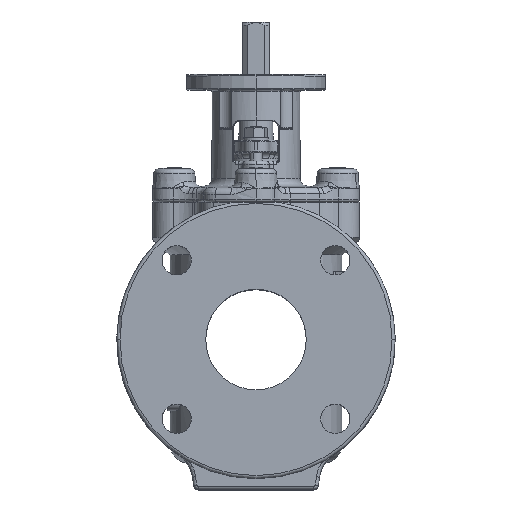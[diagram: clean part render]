
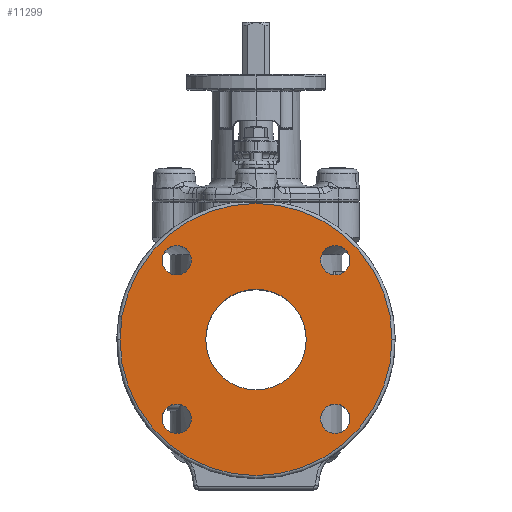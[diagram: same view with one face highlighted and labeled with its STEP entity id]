
A CAD part, top view. The second image highlights one B-rep face of the part: STEP entity #11299.
In plain terms, the highlighted planar face has unit normal (0, 0, 1).
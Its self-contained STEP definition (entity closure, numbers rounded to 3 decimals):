
#908 = ORIENTED_EDGE ( 'NONE', *, *, #983, .T. ) ;
#952 = CIRCLE ( 'NONE', #1980, 9.5 ) ;
#983 = EDGE_CURVE ( 'Defeatured_0_0+Defeatured_0_20+Defeatured_0_20+Defeatured_0_20', #19013, #18368, #7743, .T. ) ;
#1004 = CARTESIAN_POINT ( 'NONE',  ( -32.5, 0., 95. ) ) ;
#1030 = VERTEX_POINT ( 'NONE', #17329 ) ;
#1091 = DIRECTION ( 'NONE',  ( 0., 0., 1. ) ) ;
#1467 = DIRECTION ( 'NONE',  ( -1., 0., 0. ) ) ;
#1748 = AXIS2_PLACEMENT_3D ( 'NONE', #26454, #21728, #21398 ) ;
#1980 = AXIS2_PLACEMENT_3D ( 'NONE', #31773, #21829, #1467 ) ;
#2681 = DIRECTION ( 'NONE',  ( 1., 0., 0. ) ) ;
#2866 = VERTEX_POINT ( 'NONE', #7970 ) ;
#3082 = ORIENTED_EDGE ( 'NONE', *, *, #5175, .T. ) ;
#3686 = VERTEX_POINT ( 'NONE', #24693 ) ;
#3842 = ORIENTED_EDGE ( 'NONE', *, *, #25245, .T. ) ;
#3972 = AXIS2_PLACEMENT_3D ( 'NONE', #20230, #24798, #15147 ) ;
#4914 = AXIS2_PLACEMENT_3D ( 'NONE', #11850, #26538, #19337 ) ;
#5175 = EDGE_CURVE ( 'Defeatured_0_0+Defeatured_0_611+Defeatured_0_611+Defeatured_0_611', #19347, #3686, #31536, .T. ) ;
#5210 = DIRECTION ( 'NONE',  ( -1., 0., 0. ) ) ;
#5399 = DIRECTION ( 'NONE',  ( 0., -1., 0. ) ) ;
#5490 = FACE_BOUND ( 'NONE', #11392, .T. ) ;
#5534 = AXIS2_PLACEMENT_3D ( 'NONE', #31422, #31279, #25895 ) ;
#5937 = CARTESIAN_POINT ( 'NONE',  ( -88., 0., 95. ) ) ;
#6311 = ORIENTED_EDGE ( 'NONE', *, *, #11259, .T. ) ;
#6878 = VERTEX_POINT ( 'NONE', #8213 ) ;
#6893 = CARTESIAN_POINT ( 'NONE',  ( 88., 0., 95. ) ) ;
#7066 = CARTESIAN_POINT ( 'NONE',  ( 0., 0., 95. ) ) ;
#7255 = ORIENTED_EDGE ( 'NONE', *, *, #8307, .T. ) ;
#7743 = CIRCLE ( 'NONE', #30691, 88. ) ;
#7970 = CARTESIAN_POINT ( 'NONE',  ( 32.5, 0., 95. ) ) ;
#8207 = VERTEX_POINT ( 'NONE', #8443 ) ;
#8213 = CARTESIAN_POINT ( 'NONE',  ( 60.765, -51.265, 95. ) ) ;
#8307 = EDGE_CURVE ( 'Defeatured_0_0+Defeatured_0_614+Defeatured_0_614+Defeatured_0_614', #19356, #32237, #952, .T. ) ;
#8443 = CARTESIAN_POINT ( 'NONE',  ( 41.765, -51.265, 95. ) ) ;
#8833 = ORIENTED_EDGE ( 'NONE', *, *, #11913, .T. ) ;
#8901 = EDGE_LOOP ( 'NONE', ( #908, #29538 ) ) ;
#9857 = EDGE_CURVE ( 'Defeatured_0_0+Defeatured_0_614+Defeatured_0_614+Defeatured_0_614', #32237, #19356, #24805, .T. ) ;
#10349 = DIRECTION ( 'NONE',  ( 0., 0., -1. ) ) ;
#10452 = DIRECTION ( 'NONE',  ( 0., 0., -1. ) ) ;
#10624 = CIRCLE ( 'NONE', #4914, 32.5 ) ;
#11171 = FACE_BOUND ( 'NONE', #19727, .T. ) ;
#11259 = EDGE_CURVE ( 'Defeatured_0_0+Defeatured_0_615+Defeatured_0_615+Defeatured_0_615', #31274, #2866, #23224, .T. ) ;
#11299 = ADVANCED_FACE ( 'Defeatured_0_0', ( #17871, #31116, #26038, #11171, #25881, #5490 ), #18056, .T. ) ;
#11373 = ORIENTED_EDGE ( 'NONE', *, *, #15092, .T. ) ;
#11392 = EDGE_LOOP ( 'NONE', ( #6311, #27641 ) ) ;
#11692 = CIRCLE ( 'NONE', #15856, 9.5 ) ;
#11850 = CARTESIAN_POINT ( 'NONE',  ( 0., 0., 95. ) ) ;
#11913 = EDGE_CURVE ( 'Defeatured_0_0+Defeatured_0_613+Defeatured_0_613+Defeatured_0_613', #1030, #19092, #13844, .T. ) ;
#12969 = CARTESIAN_POINT ( 'NONE',  ( -51.265, -51.265, 95. ) ) ;
#13307 = DIRECTION ( 'NONE',  ( 1., 0., 0. ) ) ;
#13844 = CIRCLE ( 'NONE', #3972, 9.5 ) ;
#14380 = CIRCLE ( 'NONE', #5534, 9.5 ) ;
#14708 = CARTESIAN_POINT ( 'NONE',  ( 41.765, 51.265, 95. ) ) ;
#15092 = EDGE_CURVE ( 'Defeatured_0_0+Defeatured_0_612+Defeatured_0_612+Defeatured_0_612', #8207, #6878, #18541, .T. ) ;
#15147 = DIRECTION ( 'NONE',  ( 0., 1., 0. ) ) ;
#15352 = DIRECTION ( 'NONE',  ( 0., 0., -1. ) ) ;
#15771 = CIRCLE ( 'NONE', #1748, 88. ) ;
#15856 = AXIS2_PLACEMENT_3D ( 'NONE', #26274, #19248, #18622 ) ;
#16544 = CARTESIAN_POINT ( 'NONE',  ( -60.765, 51.265, 95. ) ) ;
#17329 = CARTESIAN_POINT ( 'NONE',  ( 60.765, 51.265, 95. ) ) ;
#17381 = CARTESIAN_POINT ( 'NONE',  ( 0., 0., 95. ) ) ;
#17810 = CARTESIAN_POINT ( 'NONE',  ( 51.265, -51.265, 95. ) ) ;
#17871 = FACE_BOUND ( 'NONE', #26943, .T. ) ;
#17879 = EDGE_CURVE ( 'Defeatured_0_0+Defeatured_0_20+Defeatured_0_20+Defeatured_0_20', #18368, #19013, #15771, .T. ) ;
#17981 = EDGE_LOOP ( 'NONE', ( #8833, #24967 ) ) ;
#17990 = AXIS2_PLACEMENT_3D ( 'NONE', #18359, #1091, #13307 ) ;
#18056 = PLANE ( 'NONE',  #17990 ) ;
#18359 = CARTESIAN_POINT ( 'NONE',  ( 0., 0., 95. ) ) ;
#18368 = VERTEX_POINT ( 'NONE', #5937 ) ;
#18541 = CIRCLE ( 'NONE', #21164, 9.5 ) ;
#18622 = DIRECTION ( 'NONE',  ( 1., 0., 0. ) ) ;
#19013 = VERTEX_POINT ( 'NONE', #6893 ) ;
#19092 = VERTEX_POINT ( 'NONE', #14708 ) ;
#19248 = DIRECTION ( 'NONE',  ( 0., 0., -1. ) ) ;
#19337 = DIRECTION ( 'NONE',  ( 1., 0., 0. ) ) ;
#19347 = VERTEX_POINT ( 'NONE', #26609 ) ;
#19356 = VERTEX_POINT ( 'NONE', #28895 ) ;
#19727 = EDGE_LOOP ( 'NONE', ( #3082, #3842 ) ) ;
#19779 = DIRECTION ( 'NONE',  ( 1., 0., 0. ) ) ;
#20230 = CARTESIAN_POINT ( 'NONE',  ( 51.265, 51.265, 95. ) ) ;
#20371 = CARTESIAN_POINT ( 'NONE',  ( -51.265, 51.265, 95. ) ) ;
#20612 = AXIS2_PLACEMENT_3D ( 'NONE', #17381, #22325, #32268 ) ;
#21164 = AXIS2_PLACEMENT_3D ( 'NONE', #17810, #15352, #19779 ) ;
#21398 = DIRECTION ( 'NONE',  ( 1., 0., 0. ) ) ;
#21725 = CIRCLE ( 'NONE', #26388, 9.5 ) ;
#21728 = DIRECTION ( 'NONE',  ( 0., 0., 1. ) ) ;
#21803 = ORIENTED_EDGE ( 'NONE', *, *, #23193, .T. ) ;
#21811 = EDGE_CURVE ( 'Defeatured_0_0+Defeatured_0_615+Defeatured_0_615+Defeatured_0_615', #2866, #31274, #10624, .T. ) ;
#21829 = DIRECTION ( 'NONE',  ( 0., 0., -1. ) ) ;
#22121 = AXIS2_PLACEMENT_3D ( 'NONE', #20371, #22837, #5210 ) ;
#22325 = DIRECTION ( 'NONE',  ( 0., 0., -1. ) ) ;
#22566 = DIRECTION ( 'NONE',  ( 0., 0., 1. ) ) ;
#22837 = DIRECTION ( 'NONE',  ( 0., 0., -1. ) ) ;
#23193 = EDGE_CURVE ( 'Defeatured_0_0+Defeatured_0_612+Defeatured_0_612+Defeatured_0_612', #6878, #8207, #11692, .T. ) ;
#23224 = CIRCLE ( 'NONE', #20612, 32.5 ) ;
#24245 = AXIS2_PLACEMENT_3D ( 'NONE', #27736, #10452, #5399 ) ;
#24665 = EDGE_CURVE ( 'Defeatured_0_0+Defeatured_0_613+Defeatured_0_613+Defeatured_0_613', #19092, #1030, #14380, .T. ) ;
#24693 = CARTESIAN_POINT ( 'NONE',  ( -60.765, -51.265, 95. ) ) ;
#24798 = DIRECTION ( 'NONE',  ( 0., 0., -1. ) ) ;
#24805 = CIRCLE ( 'NONE', #22121, 9.5 ) ;
#24967 = ORIENTED_EDGE ( 'NONE', *, *, #24665, .T. ) ;
#25186 = DIRECTION ( 'NONE',  ( 0., -1., 0. ) ) ;
#25245 = EDGE_CURVE ( 'Defeatured_0_0+Defeatured_0_611+Defeatured_0_611+Defeatured_0_611', #3686, #19347, #21725, .T. ) ;
#25278 = EDGE_LOOP ( 'NONE', ( #21803, #11373 ) ) ;
#25881 = FACE_OUTER_BOUND ( 'NONE', #8901, .T. ) ;
#25895 = DIRECTION ( 'NONE',  ( 0., 1., 0. ) ) ;
#26038 = FACE_BOUND ( 'NONE', #25278, .T. ) ;
#26274 = CARTESIAN_POINT ( 'NONE',  ( 51.265, -51.265, 95. ) ) ;
#26388 = AXIS2_PLACEMENT_3D ( 'NONE', #12969, #10349, #25186 ) ;
#26454 = CARTESIAN_POINT ( 'NONE',  ( 0., 0., 95. ) ) ;
#26538 = DIRECTION ( 'NONE',  ( 0., 0., -1. ) ) ;
#26609 = CARTESIAN_POINT ( 'NONE',  ( -41.765, -51.265, 95. ) ) ;
#26943 = EDGE_LOOP ( 'NONE', ( #7255, #27211 ) ) ;
#27211 = ORIENTED_EDGE ( 'NONE', *, *, #9857, .T. ) ;
#27641 = ORIENTED_EDGE ( 'NONE', *, *, #21811, .T. ) ;
#27736 = CARTESIAN_POINT ( 'NONE',  ( -51.265, -51.265, 95. ) ) ;
#28895 = CARTESIAN_POINT ( 'NONE',  ( -41.765, 51.265, 95. ) ) ;
#29538 = ORIENTED_EDGE ( 'NONE', *, *, #17879, .T. ) ;
#30691 = AXIS2_PLACEMENT_3D ( 'NONE', #7066, #22566, #2681 ) ;
#31116 = FACE_BOUND ( 'NONE', #17981, .T. ) ;
#31274 = VERTEX_POINT ( 'NONE', #1004 ) ;
#31279 = DIRECTION ( 'NONE',  ( 0., 0., -1. ) ) ;
#31422 = CARTESIAN_POINT ( 'NONE',  ( 51.265, 51.265, 95. ) ) ;
#31536 = CIRCLE ( 'NONE', #24245, 9.5 ) ;
#31773 = CARTESIAN_POINT ( 'NONE',  ( -51.265, 51.265, 95. ) ) ;
#32237 = VERTEX_POINT ( 'NONE', #16544 ) ;
#32268 = DIRECTION ( 'NONE',  ( 1., 0., 0. ) ) ;
